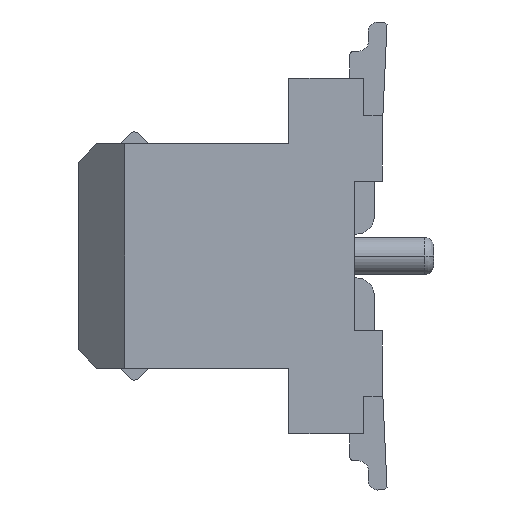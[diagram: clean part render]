
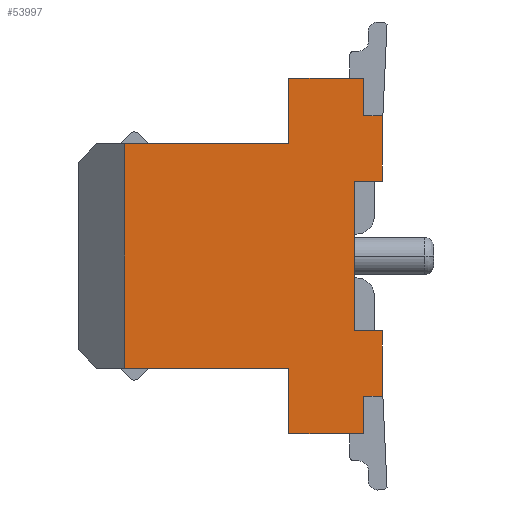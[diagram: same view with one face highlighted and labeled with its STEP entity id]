
A CAD part, left-side view. The second image highlights one B-rep face of the part: STEP entity #53997.
In plain terms, the highlighted planar face has unit normal (-1, 0, 0).
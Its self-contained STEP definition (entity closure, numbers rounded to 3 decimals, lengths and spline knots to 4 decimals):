
#442 = CARTESIAN_POINT ( 'NONE',  ( -125.9503, 101.7665, 3.125 ) ) ;
#774 = LINE ( 'NONE', #7819, #44689 ) ;
#1057 = CARTESIAN_POINT ( 'NONE',  ( -125.9503, 101.7665, 3.125 ) ) ;
#1075 = ORIENTED_EDGE ( 'NONE', *, *, #71257, .T. ) ;
#1211 = DIRECTION ( 'NONE',  ( 0., -1., 0. ) ) ;
#2141 = VECTOR ( 'NONE', #60593, 1000. ) ;
#3531 = CARTESIAN_POINT ( 'NONE',  ( -125.9503, 101.7665, 0.825 ) ) ;
#4266 = VECTOR ( 'NONE', #74328, 1000. ) ;
#4289 = EDGE_CURVE ( 'NONE', #28856, #31760, #40461, .T. ) ;
#5116 = DIRECTION ( 'NONE',  ( 0., 1., 0. ) ) ;
#5274 = VERTEX_POINT ( 'NONE', #42594 ) ;
#6412 = EDGE_CURVE ( 'NONE', #28856, #84127, #73886, .T. ) ;
#6533 = CARTESIAN_POINT ( 'NONE',  ( -125.9503, 102.7665, -0.275 ) ) ;
#6604 = AXIS2_PLACEMENT_3D ( 'NONE', #22911, #76526, #82269 ) ;
#7377 = VECTOR ( 'NONE', #63480, 1000. ) ;
#7819 = CARTESIAN_POINT ( 'NONE',  ( -125.9503, 101.9665, 0.125 ) ) ;
#7836 = CARTESIAN_POINT ( 'NONE',  ( -125.9503, 104.5165, 0.425 ) ) ;
#11025 = CARTESIAN_POINT ( 'NONE',  ( -125.9503, 101.9665, -0.275 ) ) ;
#12834 = ORIENTED_EDGE ( 'NONE', *, *, #24040, .T. ) ;
#13024 = CARTESIAN_POINT ( 'NONE',  ( -125.9503, 101.9665, 0.125 ) ) ;
#13387 = VECTOR ( 'NONE', #24454, 1000. ) ;
#14398 = VECTOR ( 'NONE', #44066, 1000. ) ;
#15185 = EDGE_CURVE ( 'NONE', #28873, #5274, #774, .T. ) ;
#16062 = EDGE_CURVE ( 'NONE', #49501, #78622, #82289, .T. ) ;
#16295 = VECTOR ( 'NONE', #74740, 1000. ) ;
#16955 = EDGE_CURVE ( 'NONE', #42244, #22412, #65358, .T. ) ;
#17919 = CARTESIAN_POINT ( 'NONE',  ( -125.9503, 101.7665, 0.125 ) ) ;
#18348 = LINE ( 'NONE', #17919, #20757 ) ;
#18494 = CARTESIAN_POINT ( 'NONE',  ( -125.9503, 102.0665, 0.825 ) ) ;
#18708 = LINE ( 'NONE', #46348, #13387 ) ;
#20601 = LINE ( 'NONE', #6533, #2141 ) ;
#20757 = VECTOR ( 'NONE', #45981, 1000. ) ;
#22412 = VERTEX_POINT ( 'NONE', #65958 ) ;
#22482 = FACE_OUTER_BOUND ( 'NONE', #63098, .T. ) ;
#22603 = LINE ( 'NONE', #18494, #7377 ) ;
#22911 = CARTESIAN_POINT ( 'NONE',  ( -125.9503, 103.1415, 1.625 ) ) ;
#22931 = CARTESIAN_POINT ( 'NONE',  ( -125.9503, 101.9665, 3.125 ) ) ;
#23107 = ORIENTED_EDGE ( 'NONE', *, *, #58007, .T. ) ;
#23693 = EDGE_CURVE ( 'NONE', #57460, #70419, #44503, .T. ) ;
#24040 = EDGE_CURVE ( 'NONE', #75670, #28873, #81393, .T. ) ;
#24454 = DIRECTION ( 'NONE',  ( 0., 1., 0. ) ) ;
#25099 = EDGE_CURVE ( 'NONE', #52288, #31760, #22603, .T. ) ;
#25293 = CARTESIAN_POINT ( 'NONE',  ( -125.9503, 102.7665, -0.275 ) ) ;
#25362 = CARTESIAN_POINT ( 'NONE',  ( -125.9503, 102.7665, -0.275 ) ) ;
#27990 = ORIENTED_EDGE ( 'NONE', *, *, #43950, .T. ) ;
#28751 = ORIENTED_EDGE ( 'NONE', *, *, #31353, .F. ) ;
#28856 = VERTEX_POINT ( 'NONE', #67539 ) ;
#28873 = VERTEX_POINT ( 'NONE', #13024 ) ;
#29903 = DIRECTION ( 'NONE',  ( 0., 1., 0. ) ) ;
#29938 = DIRECTION ( 'NONE',  ( 0., 0., 1. ) ) ;
#30039 = CARTESIAN_POINT ( 'NONE',  ( -125.9503, 102.7665, 3.525 ) ) ;
#30631 = CARTESIAN_POINT ( 'NONE',  ( -125.9503, 102.7665, 0.425 ) ) ;
#31353 = EDGE_CURVE ( 'NONE', #32438, #70419, #68189, .T. ) ;
#31760 = VERTEX_POINT ( 'NONE', #54412 ) ;
#32438 = VERTEX_POINT ( 'NONE', #37586 ) ;
#32761 = VECTOR ( 'NONE', #52942, 1000. ) ;
#33194 = ORIENTED_EDGE ( 'NONE', *, *, #38207, .F. ) ;
#37131 = CARTESIAN_POINT ( 'NONE',  ( -125.9503, 101.7665, 0.825 ) ) ;
#37586 = CARTESIAN_POINT ( 'NONE',  ( -125.9503, 104.5165, 2.825 ) ) ;
#37720 = CARTESIAN_POINT ( 'NONE',  ( -125.9503, 102.7665, 3.525 ) ) ;
#38207 = EDGE_CURVE ( 'NONE', #64459, #42244, #20601, .T. ) ;
#38466 = ORIENTED_EDGE ( 'NONE', *, *, #6412, .T. ) ;
#39787 = CARTESIAN_POINT ( 'NONE',  ( -125.9503, 101.9665, 3.525 ) ) ;
#40461 = LINE ( 'NONE', #68188, #72174 ) ;
#42244 = VERTEX_POINT ( 'NONE', #74422 ) ;
#42594 = CARTESIAN_POINT ( 'NONE',  ( -125.9503, 101.7665, 0.125 ) ) ;
#43950 = EDGE_CURVE ( 'NONE', #79943, #52288, #70365, .T. ) ;
#44066 = DIRECTION ( 'NONE',  ( 0., 0., -1. ) ) ;
#44503 = LINE ( 'NONE', #30039, #14398 ) ;
#44689 = VECTOR ( 'NONE', #1211, 1000. ) ;
#44876 = VECTOR ( 'NONE', #75681, 1000. ) ;
#45981 = DIRECTION ( 'NONE',  ( 0., 0., 1. ) ) ;
#46348 = CARTESIAN_POINT ( 'NONE',  ( -125.9503, 101.9665, 3.525 ) ) ;
#49501 = VERTEX_POINT ( 'NONE', #73885 ) ;
#49973 = ORIENTED_EDGE ( 'NONE', *, *, #16062, .T. ) ;
#52081 = LINE ( 'NONE', #25293, #32761 ) ;
#52288 = VERTEX_POINT ( 'NONE', #72193 ) ;
#52942 = DIRECTION ( 'NONE',  ( 0., -1., 0. ) ) ;
#53638 = CARTESIAN_POINT ( 'NONE',  ( -125.9503, 101.7665, 2.425 ) ) ;
#53997 = ADVANCED_FACE ( 'NONE', ( #22482 ), #55437, .F. ) ;
#54412 = CARTESIAN_POINT ( 'NONE',  ( -125.9503, 102.0665, 2.425 ) ) ;
#55437 = PLANE ( 'NONE',  #6604 ) ;
#56416 = LINE ( 'NONE', #1057, #79099 ) ;
#57460 = VERTEX_POINT ( 'NONE', #37720 ) ;
#58007 = EDGE_CURVE ( 'NONE', #64459, #75670, #52081, .T. ) ;
#58307 = ORIENTED_EDGE ( 'NONE', *, *, #16955, .F. ) ;
#60180 = ORIENTED_EDGE ( 'NONE', *, *, #81158, .F. ) ;
#60219 = VECTOR ( 'NONE', #29903, 1000. ) ;
#60593 = DIRECTION ( 'NONE',  ( 0., 0., 1. ) ) ;
#62808 = CARTESIAN_POINT ( 'NONE',  ( -125.9503, 102.7665, 2.825 ) ) ;
#63098 = EDGE_LOOP ( 'NONE', ( #33194, #23107, #12834, #67128, #81614, #27990, #65227, #63645, #38466, #1075, #49973, #80981, #85953, #28751, #60180, #58307 ) ) ;
#63480 = DIRECTION ( 'NONE',  ( 0., 0., 1. ) ) ;
#63645 = ORIENTED_EDGE ( 'NONE', *, *, #4289, .F. ) ;
#64459 = VERTEX_POINT ( 'NONE', #25362 ) ;
#65227 = ORIENTED_EDGE ( 'NONE', *, *, #25099, .T. ) ;
#65358 = LINE ( 'NONE', #30631, #77134 ) ;
#65399 = EDGE_CURVE ( 'NONE', #5274, #79943, #18348, .T. ) ;
#65958 = CARTESIAN_POINT ( 'NONE',  ( -125.9503, 104.5165, 0.425 ) ) ;
#67128 = ORIENTED_EDGE ( 'NONE', *, *, #15185, .T. ) ;
#67201 = DIRECTION ( 'NONE',  ( 0., 0., 1. ) ) ;
#67539 = CARTESIAN_POINT ( 'NONE',  ( -125.9503, 101.7665, 2.425 ) ) ;
#67751 = CARTESIAN_POINT ( 'NONE',  ( -125.9503, 104.5165, 2.825 ) ) ;
#68188 = CARTESIAN_POINT ( 'NONE',  ( -125.9503, 101.7665, 2.425 ) ) ;
#68189 = LINE ( 'NONE', #67751, #4266 ) ;
#70078 = DIRECTION ( 'NONE',  ( 0., 1., 0. ) ) ;
#70365 = LINE ( 'NONE', #3531, #60219 ) ;
#70419 = VERTEX_POINT ( 'NONE', #62808 ) ;
#70594 = VECTOR ( 'NONE', #29938, 1000. ) ;
#71257 = EDGE_CURVE ( 'NONE', #84127, #49501, #56416, .T. ) ;
#71569 = VECTOR ( 'NONE', #67201, 1000. ) ;
#72174 = VECTOR ( 'NONE', #85895, 1000. ) ;
#72193 = CARTESIAN_POINT ( 'NONE',  ( -125.9503, 102.0665, 0.825 ) ) ;
#73786 = LINE ( 'NONE', #7836, #71569 ) ;
#73885 = CARTESIAN_POINT ( 'NONE',  ( -125.9503, 101.9665, 3.125 ) ) ;
#73886 = LINE ( 'NONE', #53638, #16295 ) ;
#74328 = DIRECTION ( 'NONE',  ( 0., -1., 0. ) ) ;
#74422 = CARTESIAN_POINT ( 'NONE',  ( -125.9503, 102.7665, 0.425 ) ) ;
#74514 = EDGE_CURVE ( 'NONE', #78622, #57460, #18708, .T. ) ;
#74740 = DIRECTION ( 'NONE',  ( 0., 0., 1. ) ) ;
#75670 = VERTEX_POINT ( 'NONE', #77646 ) ;
#75681 = DIRECTION ( 'NONE',  ( 0., 0., 1. ) ) ;
#76526 = DIRECTION ( 'NONE',  ( 1., 0., 0. ) ) ;
#77134 = VECTOR ( 'NONE', #5116, 1000. ) ;
#77646 = CARTESIAN_POINT ( 'NONE',  ( -125.9503, 101.9665, -0.275 ) ) ;
#78622 = VERTEX_POINT ( 'NONE', #39787 ) ;
#79099 = VECTOR ( 'NONE', #70078, 1000. ) ;
#79943 = VERTEX_POINT ( 'NONE', #37131 ) ;
#80981 = ORIENTED_EDGE ( 'NONE', *, *, #74514, .T. ) ;
#81158 = EDGE_CURVE ( 'NONE', #22412, #32438, #73786, .T. ) ;
#81393 = LINE ( 'NONE', #11025, #70594 ) ;
#81614 = ORIENTED_EDGE ( 'NONE', *, *, #65399, .T. ) ;
#82269 = DIRECTION ( 'NONE',  ( 0., 1., 0. ) ) ;
#82289 = LINE ( 'NONE', #22931, #44876 ) ;
#84127 = VERTEX_POINT ( 'NONE', #442 ) ;
#85895 = DIRECTION ( 'NONE',  ( 0., 1., 0. ) ) ;
#85953 = ORIENTED_EDGE ( 'NONE', *, *, #23693, .T. ) ;
